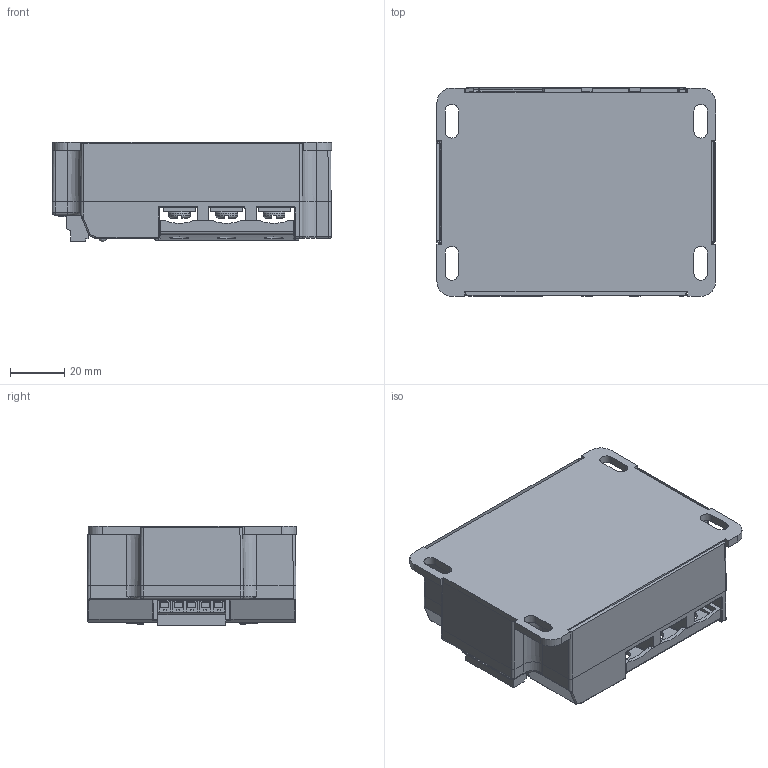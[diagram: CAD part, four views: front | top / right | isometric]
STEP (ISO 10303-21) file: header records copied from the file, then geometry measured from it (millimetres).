
FILE_DESCRIPTION(/* description */ ('Unknown'),/* implementation_level */ '2;1');
FILE_NAME(/* name */ '77x3',/* time_stamp */ '2024-01-19T10:52:13+01:00',/* author */ ('Unknown'),/* organization */ ('Unknown'),/* preprocessor_version */ 'ST-DEVELOPER v18.102',/* originating_system */ 'Solid Edge',/* authorisation */ 'Unknown');
FILE_SCHEMA (('AUTOMOTIVE_DESIGN {1 0 10303 214 3 1 1}'));
Length unit declared in the file: millimetre
Products named in the file (1): 77x3
Bounding box: 103.2 x 77.2 x 36.89 mm (x, y, z)
Surface area: 47051.2 mm2 (no closed solid volume)
Topology: 0 solids, 31 shells, 853 faces, 2611 edges, 1776 vertices
Faces by surface type: plane 526, cylinder 229, torus 62, sphere 18, bspline 14, cone 4
Full cylindrical faces by diameter (mm): 3 x3, 3.8 x2, 7 x12, 8 x6
Entity records: 30132 total; most frequent: CARTESIAN_POINT 7275, DIRECTION 4526, ORIENTED_EDGE 4480, EDGE_CURVE 2546, LINE 1790, VECTOR 1790, VERTEX_POINT 1761, AXIS2_PLACEMENT_3D 1368
